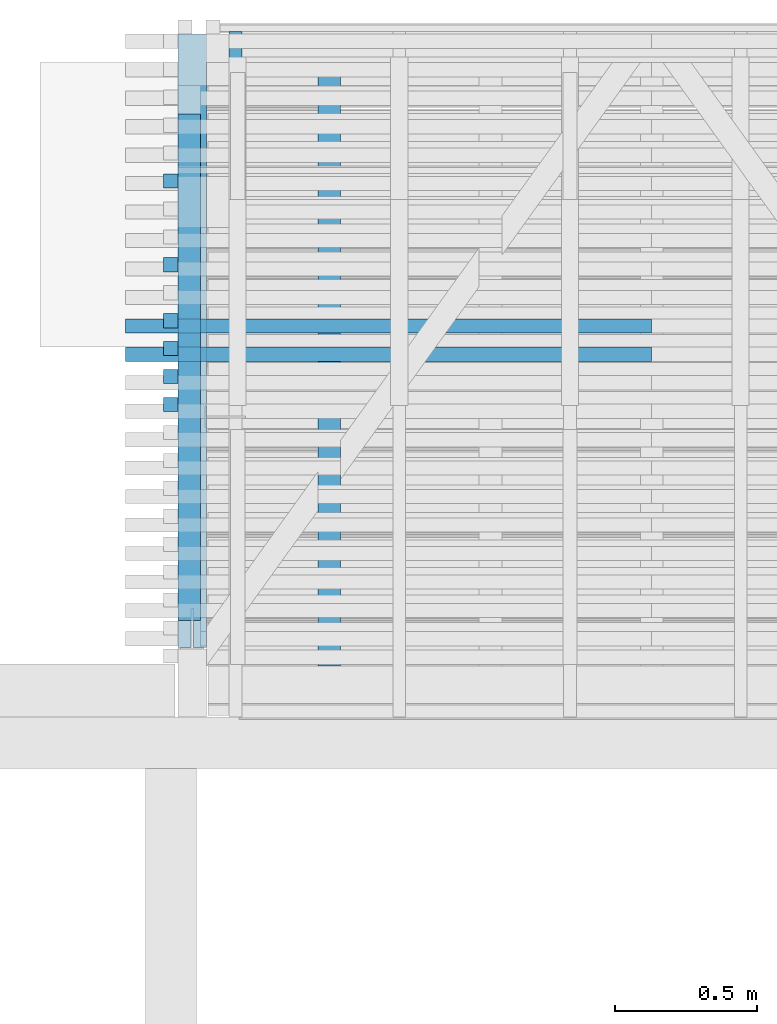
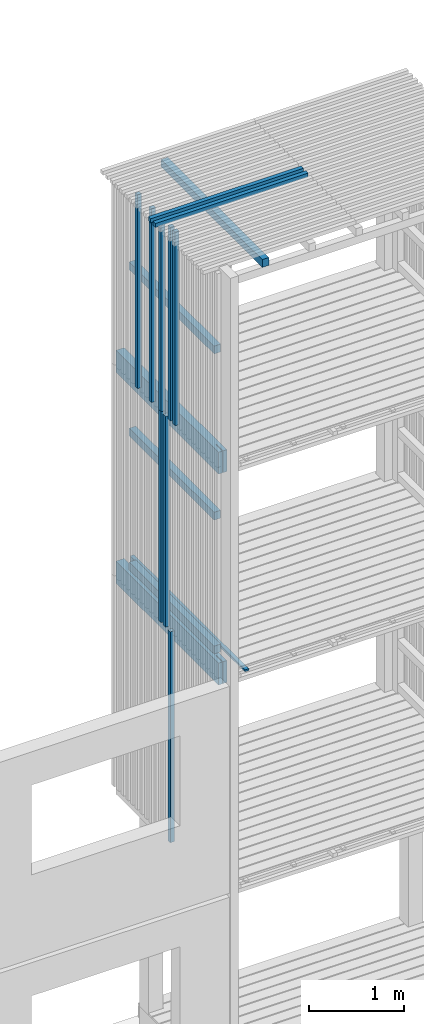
# One storey, part 40 of 182: 17 beams.
"""IFC2X3 building model written with IfcOpenShell, lengths in metres."""

from ifc_helpers import new_model, si_unit, frame, origin, place, context, project, spatial, faceted_brep, element, save


model = new_model("IFC2X3")

# Units and contexts
model_context = context("Model", 3, precision=1e-06, world=origin())
ifc_project = project(units=[si_unit("LENGTHUNIT", "METRE"), si_unit("PLANEANGLEUNIT", "RADIAN")], contexts=[model_context])

# Site, building, storey
site = spatial("IfcSite", under=ifc_project, CompositionType="ELEMENT")
building = spatial("IfcBuilding", under=site, CompositionType="ELEMENT")
storey = spatial("IfcBuildingStorey", under=building, Name="vs", CompositionType="ELEMENT", Elevation=-0.85)

# Beams
placement = place(None, origin())
beam_1_placement = place(placement, frame((13.299197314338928, 11.765077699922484, 5.274999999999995), z_axis=(1.0, 0.0, 0.0), x_axis=(0.0, 1e-15, 1.0)))
element("IfcBeam", 1, at=beam_1_placement, inside=storey, Name="Bardage", context=model_context, shape_type="Brep", body=[
    faceted_brep([(2.699999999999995, 0.025000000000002, 0.025000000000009), (2.699999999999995, -0.025000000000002, 0.025000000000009), (2.699999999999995, -0.025000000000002, -0.025000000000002), (2.699999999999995, 0.025000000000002, -0.025000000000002), (1e-15, 0.024999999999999, 0.025000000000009), (2.699999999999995, 0.025000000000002, 0.025000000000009), (2.699999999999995, 0.025000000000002, -0.025000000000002), (1e-15, 0.024999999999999, -0.025000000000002), (1e-15, -0.025000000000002, 0.025000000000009), (1e-15, 0.024999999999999, 0.025000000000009), (1e-15, 0.024999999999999, -0.025000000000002), (1e-15, -0.025000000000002, -0.025000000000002), (1e-15, 0.024999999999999, 0.025000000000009), (1e-15, -0.025000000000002, 0.025000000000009), (2.699999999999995, -0.025000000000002, 0.025000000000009), (2.699999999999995, 0.025000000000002, 0.025000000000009), (1e-15, -0.025000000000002, 0.025000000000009), (1e-15, -0.025000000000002, -0.025000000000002), (2.699999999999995, -0.025000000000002, -0.025000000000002), (2.699999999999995, -0.025000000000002, 0.025000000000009), (1e-15, -0.025000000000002, -0.025000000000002), (1e-15, 0.024999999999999, -0.025000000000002), (2.699999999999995, 0.025000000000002, -0.025000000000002), (2.699999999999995, -0.025000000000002, -0.025000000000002)], [[[0, 1, 2, 3]], [[4, 5, 6, 7]], [[8, 9, 10, 11]], [[12, 13, 14, 15]], [[16, 17, 18, 19]], [[20, 21, 22, 23]]]),
])
beam_2_placement = place(placement, frame((13.855863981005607, 10.650077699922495, 10.404999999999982), z_axis=(0.0, 0.0, 1.0), x_axis=(0.0, 1.0, 0.0)))
element("IfcBeam", 2, at=beam_2_placement, inside=storey, Name="Support bardage", context=model_context, shape_type="Brep", body=[
    faceted_brep([(2.120000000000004, -0.039999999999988, 0.050000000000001), (2.120000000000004, 0.04000000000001, 0.050000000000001), (3e-15, 0.04000000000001, 0.050000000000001), (3e-15, -0.039999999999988, 0.050000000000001), (3e-15, 0.04000000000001, 0.050000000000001), (2.120000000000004, 0.04000000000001, 0.050000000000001), (2.120000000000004, 0.04000000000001, -0.050000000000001), (3e-15, 0.04000000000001, -0.050000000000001), (2.120000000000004, 0.04000000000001, 0.050000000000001), (2.120000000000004, -0.039999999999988, 0.050000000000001), (2.120000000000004, -0.039999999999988, -0.050000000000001), (2.120000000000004, 0.04000000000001, -0.050000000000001), (2.120000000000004, -0.039999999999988, -0.050000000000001), (2.120000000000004, -0.039999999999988, 0.050000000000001), (3e-15, -0.039999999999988, 0.050000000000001), (3e-15, -0.039999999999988, -0.050000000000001), (3e-15, 0.04000000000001, -0.050000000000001), (2.120000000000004, 0.04000000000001, -0.050000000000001), (2.120000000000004, -0.039999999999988, -0.050000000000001), (3e-15, -0.039999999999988, -0.050000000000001), (3e-15, 0.04000000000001, 0.050000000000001), (3e-15, 0.04000000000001, -0.050000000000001), (3e-15, -0.039999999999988, -0.050000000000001), (3e-15, -0.039999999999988, 0.050000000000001)], [[[0, 1, 2, 3]], [[4, 5, 6, 7]], [[8, 9, 10, 11]], [[12, 13, 14, 15]], [[16, 17, 18, 19]], [[20, 21, 22, 23]]]),
])
beam_3_placement = place(placement, frame((14.989197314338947, 11.845077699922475, 10.47999999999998), z_axis=(0.0, 0.0, 1.0), x_axis=(-1.0, -2e-15, 0.0)))
element("IfcBeam", 3, at=beam_3_placement, inside=storey, Name="Bardage", context=model_context, shape_type="Brep", body=[
    faceted_brep([(1.850000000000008, -0.025000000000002, -0.024999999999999), (1.850000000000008, -0.025000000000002, 0.025000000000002), (-1e-15, -0.024999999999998, 0.025000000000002), (-1e-15, -0.024999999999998, -0.024999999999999), (1.850000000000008, -0.025000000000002, 0.025000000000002), (1.850000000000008, -0.025000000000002, -0.024999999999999), (1.850000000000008, 0.024999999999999, -0.024999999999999), (1.850000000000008, 0.024999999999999, 0.025000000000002), (1.850000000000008, 0.024999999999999, -0.024999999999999), (1.850000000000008, -0.025000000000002, -0.024999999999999), (-1e-15, -0.024999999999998, -0.024999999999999), (-1e-15, 0.025000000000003, -0.024999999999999), (1.850000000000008, 0.024999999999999, 0.025000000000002), (1.850000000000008, 0.024999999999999, -0.024999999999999), (-1e-15, 0.025000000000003, -0.024999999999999), (-1e-15, 0.025000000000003, 0.025000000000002), (-1e-15, -0.024999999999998, 0.025000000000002), (1.850000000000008, -0.025000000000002, 0.025000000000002), (1.850000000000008, 0.024999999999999, 0.025000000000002), (-1e-15, 0.025000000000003, 0.025000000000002), (-1e-15, -0.024999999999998, -0.024999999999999), (-1e-15, -0.024999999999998, 0.025000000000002), (-1e-15, 0.025000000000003, 0.025000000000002), (-1e-15, 0.025000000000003, -0.024999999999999)], [[[0, 1, 2, 3]], [[4, 5, 6, 7]], [[8, 9, 10, 11]], [[12, 13, 14, 15]], [[16, 17, 18, 19]], [[20, 21, 22, 23]]]),
])
beam_4_placement = place(placement, frame((13.364197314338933, 10.810077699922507, 7.24374999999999), z_axis=(0.0, 0.0, 1.0), x_axis=(0.0, 1.0, 0.0)))
element("IfcBeam", 4, at=beam_4_placement, inside=storey, Name="Support bardage", context=model_context, shape_type="Brep", body=[
    faceted_brep([(1.779999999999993, 0.039999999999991, -0.049999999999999), (1.779999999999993, 0.039999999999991, 0.050000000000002), (1.779999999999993, -0.040000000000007, 0.050000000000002), (1.779999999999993, -0.040000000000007, -0.049999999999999), (1.779999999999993, -0.040000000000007, 0.050000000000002), (1.779999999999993, 0.039999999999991, 0.050000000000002), (-4e-15, 0.039999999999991, 0.050000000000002), (-4e-15, -0.040000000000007, 0.050000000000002), (-4e-15, 0.039999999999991, 0.050000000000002), (1.779999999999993, 0.039999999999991, 0.050000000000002), (1.779999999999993, 0.039999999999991, -0.049999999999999), (-4e-15, 0.039999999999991, -0.049999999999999), (1.779999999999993, -0.040000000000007, -0.049999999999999), (1.779999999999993, -0.040000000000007, 0.050000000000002), (-4e-15, -0.040000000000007, 0.050000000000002), (-4e-15, -0.040000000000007, -0.049999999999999), (-4e-15, 0.039999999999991, -0.049999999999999), (1.779999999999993, 0.039999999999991, -0.049999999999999), (1.779999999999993, -0.040000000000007, -0.049999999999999), (-4e-15, -0.040000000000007, -0.049999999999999), (-4e-15, 0.039999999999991, 0.050000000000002), (-4e-15, 0.039999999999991, -0.049999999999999), (-4e-15, -0.040000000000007, -0.049999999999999), (-4e-15, -0.040000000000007, 0.050000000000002)], [[[0, 1, 2, 3]], [[4, 5, 6, 7]], [[8, 9, 10, 11]], [[12, 13, 14, 15]], [[16, 17, 18, 19]], [[20, 21, 22, 23]]]),
])
beam_5_placement = place(placement, frame((13.299197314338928, 11.568714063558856, 7.974999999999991), z_axis=(1.0, 0.0, 0.0), x_axis=(0.0, 0.0, 1.0)))
element("IfcBeam", 5, at=beam_5_placement, inside=storey, Name="Bardage", context=model_context, shape_type="Brep", body=[
    faceted_brep([(0.0, -0.024999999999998, 0.025000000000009), (0.0, 0.025000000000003, 0.025000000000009), (0.0, 0.025000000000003, -0.025000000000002), (0.0, -0.024999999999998, -0.025000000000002), (2.479999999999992, 0.025000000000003, -0.025000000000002), (2.479999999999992, 0.025000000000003, 0.025000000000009), (2.479999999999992, -0.024999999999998, 0.025000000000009), (2.479999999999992, -0.024999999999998, -0.025000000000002), (0.0, 0.025000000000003, 0.025000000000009), (0.0, -0.024999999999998, 0.025000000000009), (2.479999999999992, -0.024999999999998, 0.025000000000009), (2.479999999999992, 0.025000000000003, 0.025000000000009), (0.0, 0.025000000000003, -0.025000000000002), (0.0, 0.025000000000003, 0.025000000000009), (2.479999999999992, 0.025000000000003, 0.025000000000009), (2.479999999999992, 0.025000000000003, -0.025000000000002), (0.0, -0.024999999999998, -0.025000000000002), (0.0, 0.025000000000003, -0.025000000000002), (2.479999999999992, 0.025000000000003, -0.025000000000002), (2.479999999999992, -0.024999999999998, -0.025000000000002), (2.479999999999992, -0.024999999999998, 0.025000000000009), (0.0, -0.024999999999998, 0.025000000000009), (0.0, -0.024999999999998, -0.025000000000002), (2.479999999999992, -0.024999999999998, -0.025000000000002)], [[[0, 1, 2, 3]], [[4, 5, 6, 7]], [[8, 9, 10, 11]], [[12, 13, 14, 15]], [[16, 17, 18, 19]], [[20, 21, 22, 23]]]),
])
beam_6_placement = place(placement, frame((13.364197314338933, 10.810077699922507, 9.37249999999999), z_axis=(0.0, 0.0, 1.0), x_axis=(0.0, 1.0, 0.0)))
element("IfcBeam", 6, at=beam_6_placement, inside=storey, Name="Support bardage", context=model_context, shape_type="Brep", body=[
    faceted_brep([(1.779999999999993, 0.039999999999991, -0.050000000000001), (1.779999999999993, 0.039999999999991, 0.050000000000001), (1.779999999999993, -0.040000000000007, 0.050000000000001), (1.779999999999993, -0.040000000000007, -0.050000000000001), (1.779999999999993, -0.040000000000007, 0.050000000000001), (1.779999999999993, 0.039999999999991, 0.050000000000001), (-4e-15, 0.039999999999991, 0.050000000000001), (-4e-15, -0.040000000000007, 0.050000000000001), (-4e-15, 0.039999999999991, 0.050000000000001), (1.779999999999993, 0.039999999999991, 0.050000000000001), (1.779999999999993, 0.039999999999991, -0.050000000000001), (-4e-15, 0.039999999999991, -0.050000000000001), (1.779999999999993, -0.040000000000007, -0.050000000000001), (1.779999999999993, -0.040000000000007, 0.050000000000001), (-4e-15, -0.040000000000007, 0.050000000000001), (-4e-15, -0.040000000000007, -0.050000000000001), (-4e-15, 0.039999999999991, -0.050000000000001), (1.779999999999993, 0.039999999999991, -0.050000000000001), (1.779999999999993, -0.040000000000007, -0.050000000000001), (-4e-15, -0.040000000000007, -0.050000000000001), (-4e-15, 0.039999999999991, 0.050000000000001), (-4e-15, 0.039999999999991, -0.050000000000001), (-4e-15, -0.040000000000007, -0.050000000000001), (-4e-15, -0.040000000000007, 0.050000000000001)], [[[0, 1, 2, 3]], [[4, 5, 6, 7]], [[8, 9, 10, 11]], [[12, 13, 14, 15]], [[16, 17, 18, 19]], [[20, 21, 22, 23]]]),
])
beam_7_placement = place(placement, frame((13.374197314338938, 10.715077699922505, 7.979999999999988), z_axis=(0.0, 0.0, 1.0), x_axis=(0.0, 1.0, 0.0)))
element("IfcBeam", 7, at=beam_7_placement, inside=storey, Name="Sommier", context=model_context, shape_type="Brep", body=[
    faceted_brep([(2.154999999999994, 0.049999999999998, 0.140000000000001), (2.154999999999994, -0.049999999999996, 0.140000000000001), (2.154999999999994, -0.049999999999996, -0.14), (2.154999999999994, 0.049999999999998, -0.14), (0.771999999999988, -0.049999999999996, -0.14), (0.771999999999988, -0.049999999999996, 0.035000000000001), (0.847999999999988, -0.049999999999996, 0.035000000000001), (0.847999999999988, -0.049999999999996, -0.14), (2.154999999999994, -0.049999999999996, -0.14), (2.154999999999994, -0.049999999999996, 0.140000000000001), (0.0, -0.049999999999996, 0.140000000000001), (0.0, -0.049999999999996, -0.14), (0.771999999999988, -0.045000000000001, -0.14), (0.847999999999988, -0.045000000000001, -0.14), (0.847999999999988, -0.045000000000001, 0.035000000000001), (0.771999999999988, -0.045000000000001, 0.035000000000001), (0.771999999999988, -0.045000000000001, 0.035000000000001), (0.847999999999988, -0.045000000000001, 0.035000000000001), (0.847999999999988, -0.049999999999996, 0.035000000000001), (0.771999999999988, -0.049999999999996, 0.035000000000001), (0.847999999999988, -0.045000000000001, 0.035000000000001), (0.847999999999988, -0.045000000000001, -0.14), (0.847999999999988, -0.049999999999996, -0.14), (0.847999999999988, -0.049999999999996, 0.035000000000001), (0.771999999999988, -0.049999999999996, 0.035000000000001), (0.771999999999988, -0.049999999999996, -0.14), (0.771999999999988, -0.045000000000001, -0.14), (0.771999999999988, -0.045000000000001, 0.035000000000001), (2.154999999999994, 0.049999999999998, 0.140000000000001), (2.154999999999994, 0.049999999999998, -0.14), (0.0, 0.049999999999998, -0.14), (0.0, 0.049999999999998, 0.140000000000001), (0.0, -0.00399999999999, 0.140000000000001), (0.0, -0.049999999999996, 0.140000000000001), (2.154999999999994, -0.049999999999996, 0.140000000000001), (2.154999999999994, 0.049999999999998, 0.140000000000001), (0.0, 0.049999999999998, 0.140000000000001), (0.0, 0.004000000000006, 0.140000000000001), (0.137, 0.004000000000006, 0.140000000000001), (0.137, -0.00399999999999, 0.140000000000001), (0.0, 0.004000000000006, -0.14), (0.0, 0.004000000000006, 0.140000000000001), (0.0, 0.049999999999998, 0.140000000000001), (0.0, 0.049999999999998, -0.14), (0.0, -0.049999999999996, 0.140000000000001), (0.0, -0.00399999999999, 0.140000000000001), (0.0, -0.00399999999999, -0.14), (0.0, -0.049999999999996, -0.14), (0.0, 0.049999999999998, -0.14), (2.154999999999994, 0.049999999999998, -0.14), (2.154999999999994, -0.049999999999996, -0.14), (0.847999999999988, -0.049999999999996, -0.14), (0.847999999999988, -0.045000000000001, -0.14), (0.771999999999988, -0.045000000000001, -0.14), (0.771999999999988, -0.049999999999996, -0.14), (0.0, -0.049999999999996, -0.14), (0.0, -0.00399999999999, -0.14), (0.137, -0.00399999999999, -0.14), (0.137, 0.004000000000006, -0.14), (0.0, 0.004000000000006, -0.14), (0.137, 0.004000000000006, -0.14), (0.137, -0.00399999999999, -0.14), (0.137, -0.00399999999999, 0.140000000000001), (0.137, 0.004000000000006, 0.140000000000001), (0.0, -0.00399999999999, 0.140000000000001), (0.137, -0.00399999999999, 0.140000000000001), (0.137, -0.00399999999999, -0.14), (0.0, -0.00399999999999, -0.14), (0.137, 0.004000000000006, 0.140000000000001), (0.0, 0.004000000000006, 0.140000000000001), (0.0, 0.004000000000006, -0.14), (0.137, 0.004000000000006, -0.14)], [[[0, 1, 2, 3]], [[4, 5, 6, 7, 8, 9, 10, 11]], [[12, 13, 14, 15]], [[16, 17, 18, 19]], [[20, 21, 22, 23]], [[24, 25, 26, 27]], [[28, 29, 30, 31]], [[32, 33, 34, 35, 36, 37, 38, 39]], [[40, 41, 42, 43]], [[44, 45, 46, 47]], [[48, 49, 50, 51, 52, 53, 54, 55, 56, 57, 58, 59]], [[60, 61, 62, 63]], [[64, 65, 66, 67]], [[68, 69, 70, 71]]]),
])
beam_8_placement = place(placement, frame((14.989197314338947, 11.745077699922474, 10.47999999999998), z_axis=(0.0, 0.0, 1.0), x_axis=(-1.0, 0.0, 0.0)))
element("IfcBeam", 8, at=beam_8_placement, inside=storey, Name="Bardage", context=model_context, shape_type="Brep", body=[
    faceted_brep([(1.850000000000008, -0.024999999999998, -0.024999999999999), (1.850000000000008, -0.024999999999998, 0.025000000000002), (-1e-15, -0.024999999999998, 0.025000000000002), (-1e-15, -0.024999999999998, -0.024999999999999), (1.850000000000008, -0.024999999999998, 0.025000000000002), (1.850000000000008, -0.024999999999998, -0.024999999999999), (1.850000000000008, 0.024999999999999, -0.024999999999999), (1.850000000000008, 0.024999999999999, 0.025000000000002), (1.850000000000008, 0.024999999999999, -0.024999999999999), (1.850000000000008, -0.024999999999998, -0.024999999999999), (-1e-15, -0.024999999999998, -0.024999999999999), (-1e-15, 0.024999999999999, -0.024999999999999), (1.850000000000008, 0.024999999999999, 0.025000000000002), (1.850000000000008, 0.024999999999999, -0.024999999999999), (-1e-15, 0.024999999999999, -0.024999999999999), (-1e-15, 0.024999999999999, 0.025000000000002), (-1e-15, -0.024999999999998, 0.025000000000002), (1.850000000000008, -0.024999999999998, 0.025000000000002), (1.850000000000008, 0.024999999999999, 0.025000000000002), (-1e-15, 0.024999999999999, 0.025000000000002), (-1e-15, -0.024999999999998, -0.024999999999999), (-1e-15, -0.024999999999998, 0.025000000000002), (-1e-15, 0.024999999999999, 0.025000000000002), (-1e-15, 0.024999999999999, -0.024999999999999)], [[[0, 1, 2, 3]], [[4, 5, 6, 7]], [[8, 9, 10, 11]], [[12, 13, 14, 15]], [[16, 17, 18, 19]], [[20, 21, 22, 23]]]),
])
beam_9_placement = place(placement, frame((13.299197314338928, 12.354168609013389, 7.974999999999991), z_axis=(1.0, 0.0, 0.0), x_axis=(0.0, 0.0, 1.0)))
element("IfcBeam", 9, at=beam_9_placement, inside=storey, Name="Bardage", context=model_context, shape_type="Brep", body=[
    faceted_brep([(0.0, -0.024999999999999, 0.025000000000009), (0.0, 0.025000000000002, 0.025000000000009), (0.0, 0.025000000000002, -0.025000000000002), (0.0, -0.024999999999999, -0.025000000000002), (2.479999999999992, 0.025000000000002, -0.025000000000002), (2.479999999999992, 0.025000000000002, 0.025000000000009), (2.479999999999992, -0.024999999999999, 0.025000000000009), (2.479999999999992, -0.024999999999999, -0.025000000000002), (0.0, 0.025000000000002, 0.025000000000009), (0.0, -0.024999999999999, 0.025000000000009), (2.479999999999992, -0.024999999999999, 0.025000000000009), (2.479999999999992, 0.025000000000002, 0.025000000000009), (0.0, 0.025000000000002, -0.025000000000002), (0.0, 0.025000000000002, 0.025000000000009), (2.479999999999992, 0.025000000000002, 0.025000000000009), (2.479999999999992, 0.025000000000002, -0.025000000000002), (0.0, -0.024999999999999, -0.025000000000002), (0.0, 0.025000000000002, -0.025000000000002), (2.479999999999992, 0.025000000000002, -0.025000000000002), (2.479999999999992, -0.024999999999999, -0.025000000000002), (2.479999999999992, -0.024999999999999, 0.025000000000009), (0.0, -0.024999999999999, 0.025000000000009), (0.0, -0.024999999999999, -0.025000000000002), (2.479999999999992, -0.024999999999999, -0.025000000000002)], [[[0, 1, 2, 3]], [[4, 5, 6, 7]], [[8, 9, 10, 11]], [[12, 13, 14, 15]], [[16, 17, 18, 19]], [[20, 21, 22, 23]]]),
])
beam_10_placement = place(placement, frame((13.299197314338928, 11.666895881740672, 2.575000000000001), z_axis=(1.0, 0.0, 0.0), x_axis=(0.0, 0.0, 1.0)))
element("IfcBeam", 10, at=beam_10_placement, inside=storey, Name="Bardage", context=model_context, shape_type="Brep", body=[
    faceted_brep([(2.699961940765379, -0.024999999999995, 0.025000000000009), (2.699961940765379, -0.024999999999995, -0.025000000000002), (2.699961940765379, 0.025000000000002, -0.025000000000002), (2.699961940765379, 0.025000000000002, 0.025000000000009), (0.0, -0.024999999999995, 0.025000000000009), (2.699961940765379, -0.024999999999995, 0.025000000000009), (2.699961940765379, 0.025000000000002, 0.025000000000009), (0.0, 0.025000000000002, 0.025000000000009), (0.0, -0.024999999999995, 0.025000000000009), (0.0, 0.025000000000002, 0.025000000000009), (0.0, 0.025000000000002, -0.025000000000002), (0.0, -0.024999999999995, -0.025000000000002), (0.0, -0.024999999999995, 0.025000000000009), (0.0, -0.024999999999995, -0.025000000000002), (2.699961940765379, -0.024999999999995, -0.025000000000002), (2.699961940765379, -0.024999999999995, 0.025000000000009), (0.0, -0.024999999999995, -0.025000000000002), (0.0, 0.025000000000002, -0.025000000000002), (2.699961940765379, 0.025000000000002, -0.025000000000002), (2.699961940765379, -0.024999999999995, -0.025000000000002), (0.0, 0.025000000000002, -0.025000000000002), (0.0, 0.025000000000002, 0.025000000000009), (2.699961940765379, 0.025000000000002, 0.025000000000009), (2.699961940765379, 0.025000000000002, -0.025000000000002)], [[[0, 1, 2, 3]], [[4, 5, 6, 7]], [[8, 9, 10, 11]], [[12, 13, 14, 15]], [[16, 17, 18, 19]], [[20, 21, 22, 23]]]),
])
beam_11_placement = place(placement, frame((13.299197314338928, 12.059623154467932, 7.974999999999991), z_axis=(1.0, 0.0, 0.0), x_axis=(0.0, 0.0, 1.0)))
element("IfcBeam", 11, at=beam_11_placement, inside=storey, Name="Bardage", context=model_context, shape_type="Brep", body=[
    faceted_brep([(0.0, -0.025000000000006, 0.025000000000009), (0.0, 0.024999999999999, 0.025000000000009), (0.0, 0.024999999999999, -0.025000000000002), (0.0, -0.025000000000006, -0.025000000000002), (2.479999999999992, 0.024999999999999, -0.025000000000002), (2.479999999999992, 0.024999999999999, 0.025000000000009), (2.479999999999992, -0.025000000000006, 0.025000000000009), (2.479999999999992, -0.025000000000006, -0.025000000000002), (0.0, 0.024999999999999, 0.025000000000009), (0.0, -0.025000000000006, 0.025000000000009), (2.479999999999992, -0.025000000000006, 0.025000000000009), (2.479999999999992, 0.024999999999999, 0.025000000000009), (0.0, 0.024999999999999, -0.025000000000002), (0.0, 0.024999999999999, 0.025000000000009), (2.479999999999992, 0.024999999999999, 0.025000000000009), (2.479999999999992, 0.024999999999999, -0.025000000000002), (0.0, -0.025000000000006, -0.025000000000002), (0.0, 0.024999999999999, -0.025000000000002), (2.479999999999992, 0.024999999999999, -0.025000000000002), (2.479999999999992, -0.025000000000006, -0.025000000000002), (2.479999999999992, -0.025000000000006, 0.025000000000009), (0.0, -0.025000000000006, 0.025000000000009), (0.0, -0.025000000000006, -0.025000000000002), (2.479999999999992, -0.025000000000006, -0.025000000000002)], [[[0, 1, 2, 3]], [[4, 5, 6, 7]], [[8, 9, 10, 11]], [[12, 13, 14, 15]], [[16, 17, 18, 19]], [[20, 21, 22, 23]]]),
])
beam_12_placement = place(placement, frame((13.374197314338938, 10.715077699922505, 5.279999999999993), z_axis=(0.0, 0.0, 1.0), x_axis=(0.0, 1.0, 0.0)))
element("IfcBeam", 12, at=beam_12_placement, inside=storey, Name="Sommier", context=model_context, shape_type="Brep", body=[
    faceted_brep([(2.154999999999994, 0.049999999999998, 0.140000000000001), (2.154999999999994, -0.049999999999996, 0.140000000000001), (2.154999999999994, -0.049999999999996, -0.140000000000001), (2.154999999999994, 0.049999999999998, -0.140000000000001), (0.771999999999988, -0.049999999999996, -0.140000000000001), (0.771999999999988, -0.049999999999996, 0.034999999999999), (0.847999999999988, -0.049999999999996, 0.034999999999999), (0.847999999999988, -0.049999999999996, -0.140000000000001), (2.154999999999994, -0.049999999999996, -0.140000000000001), (2.154999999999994, -0.049999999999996, 0.140000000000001), (0.0, -0.049999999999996, 0.140000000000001), (0.0, -0.049999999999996, -0.140000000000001), (0.771999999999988, -0.045000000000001, -0.140000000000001), (0.847999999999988, -0.045000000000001, -0.140000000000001), (0.847999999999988, -0.045000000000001, 0.034999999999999), (0.771999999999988, -0.045000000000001, 0.034999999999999), (0.771999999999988, -0.045000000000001, 0.034999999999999), (0.847999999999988, -0.045000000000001, 0.034999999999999), (0.847999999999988, -0.049999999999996, 0.034999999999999), (0.771999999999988, -0.049999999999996, 0.034999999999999), (0.847999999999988, -0.045000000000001, 0.034999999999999), (0.847999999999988, -0.045000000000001, -0.140000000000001), (0.847999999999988, -0.049999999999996, -0.140000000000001), (0.847999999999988, -0.049999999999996, 0.034999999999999), (0.771999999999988, -0.049999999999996, 0.034999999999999), (0.771999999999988, -0.049999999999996, -0.140000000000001), (0.771999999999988, -0.045000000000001, -0.140000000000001), (0.771999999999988, -0.045000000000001, 0.034999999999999), (2.154999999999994, 0.049999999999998, 0.140000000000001), (2.154999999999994, 0.049999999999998, -0.140000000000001), (0.0, 0.049999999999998, -0.140000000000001), (0.0, 0.049999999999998, 0.140000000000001), (0.0, -0.00399999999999, 0.140000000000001), (0.0, -0.049999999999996, 0.140000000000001), (2.154999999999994, -0.049999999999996, 0.140000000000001), (2.154999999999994, 0.049999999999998, 0.140000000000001), (0.0, 0.049999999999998, 0.140000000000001), (0.0, 0.004000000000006, 0.140000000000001), (0.137, 0.004000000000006, 0.140000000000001), (0.137, -0.00399999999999, 0.140000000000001), (0.0, 0.004000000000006, -0.140000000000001), (0.0, 0.004000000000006, 0.140000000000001), (0.0, 0.049999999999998, 0.140000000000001), (0.0, 0.049999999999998, -0.140000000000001), (0.0, -0.049999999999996, 0.140000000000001), (0.0, -0.00399999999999, 0.140000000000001), (0.0, -0.00399999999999, -0.140000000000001), (0.0, -0.049999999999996, -0.140000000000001), (0.0, 0.049999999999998, -0.140000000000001), (2.154999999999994, 0.049999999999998, -0.140000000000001), (2.154999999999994, -0.049999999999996, -0.140000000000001), (0.847999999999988, -0.049999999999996, -0.140000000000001), (0.847999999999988, -0.045000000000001, -0.140000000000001), (0.771999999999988, -0.045000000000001, -0.140000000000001), (0.771999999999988, -0.049999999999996, -0.140000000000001), (0.0, -0.049999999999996, -0.140000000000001), (0.0, -0.00399999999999, -0.140000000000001), (0.137, -0.00399999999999, -0.140000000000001), (0.137, 0.004000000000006, -0.140000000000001), (0.0, 0.004000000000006, -0.140000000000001), (0.137, 0.004000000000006, -0.140000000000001), (0.137, -0.00399999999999, -0.140000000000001), (0.137, -0.00399999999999, 0.140000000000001), (0.137, 0.004000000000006, 0.140000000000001), (0.0, -0.00399999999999, 0.140000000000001), (0.137, -0.00399999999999, 0.140000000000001), (0.137, -0.00399999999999, -0.140000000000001), (0.0, -0.00399999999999, -0.140000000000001), (0.137, 0.004000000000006, 0.140000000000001), (0.0, 0.004000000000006, 0.140000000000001), (0.0, 0.004000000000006, -0.140000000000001), (0.137, 0.004000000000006, -0.140000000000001)], [[[0, 1, 2, 3]], [[4, 5, 6, 7, 8, 9, 10, 11]], [[12, 13, 14, 15]], [[16, 17, 18, 19]], [[20, 21, 22, 23]], [[24, 25, 26, 27]], [[28, 29, 30, 31]], [[32, 33, 34, 35, 36, 37, 38, 39]], [[40, 41, 42, 43]], [[44, 45, 46, 47]], [[48, 49, 50, 51, 52, 53, 54, 55, 56, 57, 58, 59]], [[60, 61, 62, 63]], [[64, 65, 66, 67]], [[68, 69, 70, 71]]]),
])
beam_13_placement = place(placement, frame((13.364197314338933, 10.810077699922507, 5.529999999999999), z_axis=(0.0, 0.0, 1.0), x_axis=(0.0, 1.0, 0.0)))
element("IfcBeam", 13, at=beam_13_placement, inside=storey, Name="Support bardage", context=model_context, shape_type="Brep", body=[
    faceted_brep([(1.779999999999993, 0.039999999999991, -0.050000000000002), (1.779999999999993, 0.039999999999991, 0.05), (1.779999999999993, -0.040000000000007, 0.05), (1.779999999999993, -0.040000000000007, -0.050000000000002), (1.779999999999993, -0.040000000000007, 0.05), (1.779999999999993, 0.039999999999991, 0.05), (-4e-15, 0.039999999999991, 0.05), (-4e-15, -0.040000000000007, 0.05), (-4e-15, 0.039999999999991, 0.05), (1.779999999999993, 0.039999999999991, 0.05), (1.779999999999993, 0.039999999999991, -0.050000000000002), (-4e-15, 0.039999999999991, -0.050000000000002), (1.779999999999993, -0.040000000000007, -0.050000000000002), (1.779999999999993, -0.040000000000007, 0.05), (-4e-15, -0.040000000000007, 0.05), (-4e-15, -0.040000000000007, -0.050000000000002), (-4e-15, 0.039999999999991, -0.050000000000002), (1.779999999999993, 0.039999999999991, -0.050000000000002), (1.779999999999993, -0.040000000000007, -0.050000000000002), (-4e-15, -0.040000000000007, -0.050000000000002), (-4e-15, 0.039999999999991, 0.05), (-4e-15, 0.039999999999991, -0.050000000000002), (-4e-15, -0.040000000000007, -0.050000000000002), (-4e-15, -0.040000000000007, 0.05)], [[[0, 1, 2, 3]], [[4, 5, 6, 7]], [[8, 9, 10, 11]], [[12, 13, 14, 15]], [[16, 17, 18, 19]], [[20, 21, 22, 23]]]),
])
beam_14_placement = place(placement, frame((13.526697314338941, 10.4700776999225, 5.384400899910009), z_axis=(0.0, 0.0, 1.0), x_axis=(0.0, 1.0, 0.0)))
element("IfcBeam", 14, at=beam_14_placement, inside=storey, Name="Calage", context=model_context, shape_type="Brep", body=[
    faceted_brep([(2.41000000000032, -0.022499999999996, -0.035599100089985), (0.0, -0.022499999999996, 0.012600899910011), (0.0, 0.022500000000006, 0.012600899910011), (2.41000000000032, 0.022500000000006, -0.035599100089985), (0.0, 0.022500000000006, 0.035599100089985), (0.0, 0.022500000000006, 0.012600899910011), (0.0, -0.022499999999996, 0.012600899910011), (0.0, -0.022499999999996, 0.035599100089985), (2.41000000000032, 0.022500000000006, -0.035599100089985), (0.0, 0.022500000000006, 0.012600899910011), (0.0, 0.022500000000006, 0.035599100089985), (2.41000000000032, 0.022500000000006, 0.035599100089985), (2.41000000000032, -0.022499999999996, 0.035599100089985), (0.0, -0.022499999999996, 0.035599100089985), (0.0, -0.022499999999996, 0.012600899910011), (2.41000000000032, -0.022499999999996, -0.035599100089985), (2.41000000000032, 0.022500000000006, 0.035599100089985), (0.0, 0.022500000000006, 0.035599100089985), (0.0, -0.022499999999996, 0.035599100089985), (2.41000000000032, -0.022499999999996, 0.035599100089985), (2.41000000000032, 0.022500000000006, -0.035599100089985), (2.41000000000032, 0.022500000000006, 0.035599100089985), (2.41000000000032, -0.022499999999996, 0.035599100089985), (2.41000000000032, -0.022499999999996, -0.035599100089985)], [[[0, 1, 2, 3]], [[4, 5, 6, 7]], [[8, 9, 10, 11]], [[12, 13, 14, 15]], [[16, 17, 18, 19]], [[20, 21, 22, 23]]]),
])
beam_15_placement = place(placement, frame((13.299197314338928, 11.863259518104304, 5.274999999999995), z_axis=(1.0, 0.0, 0.0), x_axis=(0.0, 0.0, 1.0)))
element("IfcBeam", 15, at=beam_15_placement, inside=storey, Name="Bardage", context=model_context, shape_type="Brep", body=[
    faceted_brep([(2.699999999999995, 0.025000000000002, 0.025000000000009), (2.699999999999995, -0.024999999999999, 0.025000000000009), (2.699999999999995, -0.024999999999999, -0.025000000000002), (2.699999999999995, 0.025000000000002, -0.025000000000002), (1e-15, 0.025000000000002, 0.025000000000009), (2.699999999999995, 0.025000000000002, 0.025000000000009), (2.699999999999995, 0.025000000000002, -0.025000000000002), (1e-15, 0.025000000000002, -0.025000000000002), (1e-15, -0.024999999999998, 0.025000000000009), (1e-15, 0.025000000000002, 0.025000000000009), (1e-15, 0.025000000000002, -0.025000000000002), (1e-15, -0.024999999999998, -0.025000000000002), (1e-15, 0.025000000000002, 0.025000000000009), (1e-15, -0.024999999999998, 0.025000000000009), (2.699999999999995, -0.024999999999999, 0.025000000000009), (2.699999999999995, 0.025000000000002, 0.025000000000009), (1e-15, -0.024999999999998, 0.025000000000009), (1e-15, -0.024999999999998, -0.025000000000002), (2.699999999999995, -0.024999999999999, -0.025000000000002), (2.699999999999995, -0.024999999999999, 0.025000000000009), (1e-15, -0.024999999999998, -0.025000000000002), (1e-15, 0.025000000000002, -0.025000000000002), (2.699999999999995, 0.025000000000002, -0.025000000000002), (2.699999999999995, -0.024999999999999, -0.025000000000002)], [[[0, 1, 2, 3]], [[4, 5, 6, 7]], [[8, 9, 10, 11]], [[12, 13, 14, 15]], [[16, 17, 18, 19]], [[20, 21, 22, 23]]]),
])
beam_16_placement = place(placement, frame((13.299197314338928, 11.863259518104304, 7.974999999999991), z_axis=(1.0, 0.0, 0.0), x_axis=(0.0, 0.0, 1.0)))
element("IfcBeam", 16, at=beam_16_placement, inside=storey, Name="Bardage", context=model_context, shape_type="Brep", body=[
    faceted_brep([(0.0, -0.024999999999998, 0.025000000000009), (0.0, 0.025000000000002, 0.025000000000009), (0.0, 0.025000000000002, -0.025000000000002), (0.0, -0.024999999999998, -0.025000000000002), (2.479999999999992, 0.025000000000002, -0.025000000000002), (2.479999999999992, 0.025000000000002, 0.025000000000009), (2.479999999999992, -0.024999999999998, 0.025000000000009), (2.479999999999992, -0.024999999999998, -0.025000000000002), (0.0, 0.025000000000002, 0.025000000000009), (0.0, -0.024999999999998, 0.025000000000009), (2.479999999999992, -0.024999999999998, 0.025000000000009), (2.479999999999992, 0.025000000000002, 0.025000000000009), (0.0, 0.025000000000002, -0.025000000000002), (0.0, 0.025000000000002, 0.025000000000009), (2.479999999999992, 0.025000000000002, 0.025000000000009), (2.479999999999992, 0.025000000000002, -0.025000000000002), (0.0, -0.024999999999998, -0.025000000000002), (0.0, 0.025000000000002, -0.025000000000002), (2.479999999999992, 0.025000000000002, -0.025000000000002), (2.479999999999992, -0.024999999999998, -0.025000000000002), (2.479999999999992, -0.024999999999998, 0.025000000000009), (0.0, -0.024999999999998, 0.025000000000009), (0.0, -0.024999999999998, -0.025000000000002), (2.479999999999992, -0.024999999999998, -0.025000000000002)], [[[0, 1, 2, 3]], [[4, 5, 6, 7]], [[8, 9, 10, 11]], [[12, 13, 14, 15]], [[16, 17, 18, 19]], [[20, 21, 22, 23]]]),
])
beam_17_placement = place(placement, frame((13.299197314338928, 11.666895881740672, 7.974999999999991), z_axis=(1.0, 0.0, 0.0), x_axis=(0.0, 0.0, 1.0)))
element("IfcBeam", 17, at=beam_17_placement, inside=storey, Name="Bardage", context=model_context, shape_type="Brep", body=[
    faceted_brep([(0.0, -0.024999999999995, 0.025000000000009), (0.0, 0.025000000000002, 0.025000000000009), (0.0, 0.025000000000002, -0.025000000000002), (0.0, -0.024999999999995, -0.025000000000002), (2.479999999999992, 0.025000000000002, -0.025000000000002), (2.479999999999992, 0.025000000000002, 0.025000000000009), (2.479999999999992, -0.024999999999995, 0.025000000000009), (2.479999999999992, -0.024999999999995, -0.025000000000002), (0.0, 0.025000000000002, 0.025000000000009), (0.0, -0.024999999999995, 0.025000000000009), (2.479999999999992, -0.024999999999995, 0.025000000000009), (2.479999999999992, 0.025000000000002, 0.025000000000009), (0.0, 0.025000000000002, -0.025000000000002), (0.0, 0.025000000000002, 0.025000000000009), (2.479999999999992, 0.025000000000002, 0.025000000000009), (2.479999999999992, 0.025000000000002, -0.025000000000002), (0.0, -0.024999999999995, -0.025000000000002), (0.0, 0.025000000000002, -0.025000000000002), (2.479999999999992, 0.025000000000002, -0.025000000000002), (2.479999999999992, -0.024999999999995, -0.025000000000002), (2.479999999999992, -0.024999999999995, 0.025000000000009), (0.0, -0.024999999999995, 0.025000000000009), (0.0, -0.024999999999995, -0.025000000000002), (2.479999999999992, -0.024999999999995, -0.025000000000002)], [[[0, 1, 2, 3]], [[4, 5, 6, 7]], [[8, 9, 10, 11]], [[12, 13, 14, 15]], [[16, 17, 18, 19]], [[20, 21, 22, 23]]]),
])

save(model, "model.ifc")
